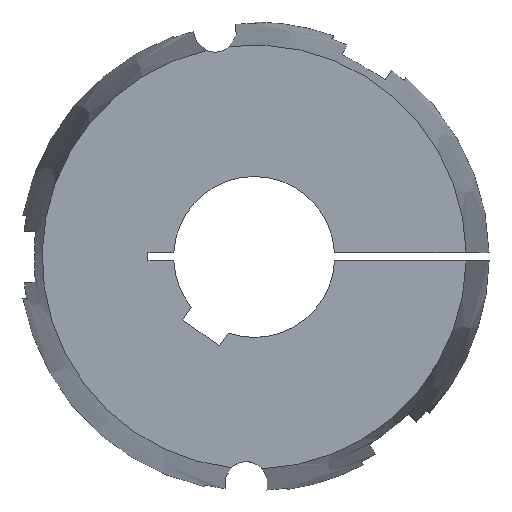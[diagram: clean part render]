
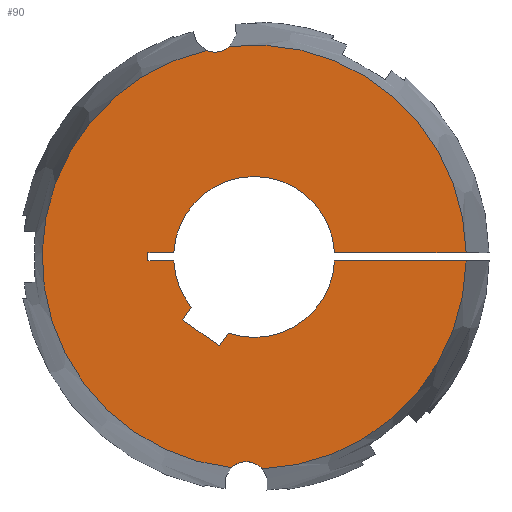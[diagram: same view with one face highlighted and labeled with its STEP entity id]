
A CAD part, left-side view. The second image highlights one B-rep face of the part: STEP entity #90.
In plain terms, the highlighted planar face has unit normal (-1, 0, 0).
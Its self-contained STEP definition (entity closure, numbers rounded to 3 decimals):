
#90 = ADVANCED_FACE( '', ( #140 ), #141, .F. );
#140 = FACE_OUTER_BOUND( '', #208, .T. );
#141 = PLANE( '', #209 );
#208 = EDGE_LOOP( '', ( #369, #370, #371, #372, #373, #374, #375, #376, #377, #378, #379, #380, #381, #382, #383, #384 ) );
#209 = AXIS2_PLACEMENT_3D( '', #385, #386, #387 );
#369 = ORIENTED_EDGE( '', *, *, #548, .F. );
#370 = ORIENTED_EDGE( '', *, *, #601, .F. );
#371 = ORIENTED_EDGE( '', *, *, #570, .T. );
#372 = ORIENTED_EDGE( '', *, *, #583, .T. );
#373 = ORIENTED_EDGE( '', *, *, #581, .T. );
#374 = ORIENTED_EDGE( '', *, *, #578, .T. );
#375 = ORIENTED_EDGE( '', *, *, #587, .T. );
#376 = ORIENTED_EDGE( '', *, *, #602, .T. );
#377 = ORIENTED_EDGE( '', *, *, #603, .T. );
#378 = ORIENTED_EDGE( '', *, *, #604, .T. );
#379 = ORIENTED_EDGE( '', *, *, #605, .T. );
#380 = ORIENTED_EDGE( '', *, *, #606, .T. );
#381 = ORIENTED_EDGE( '', *, *, #572, .T. );
#382 = ORIENTED_EDGE( '', *, *, #607, .F. );
#383 = ORIENTED_EDGE( '', *, *, #551, .F. );
#384 = ORIENTED_EDGE( '', *, *, #608, .F. );
#385 = CARTESIAN_POINT( '', ( -102., 0., 0. ) );
#386 = DIRECTION( '', ( 1., 0., 0. ) );
#387 = DIRECTION( '', ( 0., 1., 0. ) );
#548 = EDGE_CURVE( '', #649, #651, #652, .F. );
#551 = EDGE_CURVE( '', #655, #657, #658, .F. );
#570 = EDGE_CURVE( '', #693, #691, #694, .T. );
#572 = EDGE_CURVE( '', #696, #697, #698, .T. );
#578 = EDGE_CURVE( '', #709, #707, #710, .T. );
#581 = EDGE_CURVE( '', #714, #709, #715, .T. );
#583 = EDGE_CURVE( '', #691, #714, #717, .T. );
#587 = EDGE_CURVE( '', #707, #721, #723, .T. );
#601 = EDGE_CURVE( '', #693, #649, #745, .T. );
#602 = EDGE_CURVE( '', #721, #746, #747, .T. );
#603 = EDGE_CURVE( '', #746, #748, #749, .T. );
#604 = EDGE_CURVE( '', #748, #750, #751, .T. );
#605 = EDGE_CURVE( '', #750, #752, #753, .T. );
#606 = EDGE_CURVE( '', #752, #696, #754, .T. );
#607 = EDGE_CURVE( '', #657, #697, #755, .T. );
#608 = EDGE_CURVE( '', #651, #655, #756, .T. );
#649 = VERTEX_POINT( '', #815 );
#651 = VERTEX_POINT( '', #828 );
#652 = CIRCLE( '', #829, 6.75 );
#655 = VERTEX_POINT( '', #843 );
#657 = VERTEX_POINT( '', #856 );
#658 = CIRCLE( '', #857, 6.75 );
#691 = VERTEX_POINT( '', #924 );
#693 = VERTEX_POINT( '', #927 );
#694 = LINE( '', #928, #929 );
#696 = VERTEX_POINT( '', #937 );
#697 = VERTEX_POINT( '', #938 );
#698 = LINE( '', #939, #940 );
#707 = VERTEX_POINT( '', #958 );
#709 = VERTEX_POINT( '', #961 );
#710 = LINE( '', #962, #963 );
#714 = VERTEX_POINT( '', #969 );
#715 = LINE( '', #970, #971 );
#717 = CIRCLE( '', #974, 25. );
#721 = VERTEX_POINT( '', #979 );
#723 = LINE( '', #982, #983 );
#745 = CIRCLE( '', #1008, 65.867 );
#746 = VERTEX_POINT( '', #1009 );
#747 = CIRCLE( '', #1010, 25. );
#748 = VERTEX_POINT( '', #1011 );
#749 = LINE( '', #1012, #1013 );
#750 = VERTEX_POINT( '', #1014 );
#751 = LINE( '', #1015, #1016 );
#752 = VERTEX_POINT( '', #1017 );
#753 = LINE( '', #1018, #1019 );
#754 = CIRCLE( '', #1020, 25. );
#755 = CIRCLE( '', #1021, 65.867 );
#756 = CIRCLE( '', #1022, 65.867 );
#815 = CARTESIAN_POINT( '', ( -102., -2.538, -65.819 ) );
#828 = CARTESIAN_POINT( '', ( -102., 7.121, -65.481 ) );
#829 = AXIS2_PLACEMENT_3D( '', #1188, #1189, #1190 );
#843 = CARTESIAN_POINT( '', ( -102., 14.891, 64.162 ) );
#856 = CARTESIAN_POINT( '', ( -102., 7.611, 65.426 ) );
#857 = AXIS2_PLACEMENT_3D( '', #1191, #1192, #1193 );
#924 = CARTESIAN_POINT( '', ( -102., -24.969, -1.25 ) );
#927 = CARTESIAN_POINT( '', ( -102., -65.856, -1.25 ) );
#928 = CARTESIAN_POINT( '', ( -102., -73., -1.25 ) );
#929 = VECTOR( '', #1223, 1000. );
#937 = CARTESIAN_POINT( '', ( -102., -24.969, 1.25 ) );
#938 = CARTESIAN_POINT( '', ( -102., -65.856, 1.25 ) );
#939 = CARTESIAN_POINT( '', ( -102., 0., 1.25 ) );
#940 = VECTOR( '', #1224, 1000. );
#958 = CARTESIAN_POINT( '', ( -102., 22.253, -19.577 ) );
#961 = CARTESIAN_POINT( '', ( -102., 10.785, -27.607 ) );
#962 = CARTESIAN_POINT( '', ( -102., 10.785, -27.607 ) );
#963 = VECTOR( '', #1229, 1000. );
#969 = CARTESIAN_POINT( '', ( -102., 8.032, -23.675 ) );
#970 = CARTESIAN_POINT( '', ( -102., 8.032, -23.675 ) );
#971 = VECTOR( '', #1232, 1000. );
#974 = AXIS2_PLACEMENT_3D( '', #1234, #1235, #1236 );
#979 = CARTESIAN_POINT( '', ( -102., 19.5, -15.645 ) );
#982 = CARTESIAN_POINT( '', ( -102., 22.253, -19.577 ) );
#983 = VECTOR( '', #1242, 1000. );
#1008 = AXIS2_PLACEMENT_3D( '', #1276, #1277, #1278 );
#1009 = CARTESIAN_POINT( '', ( -102., 24.969, -1.25 ) );
#1010 = AXIS2_PLACEMENT_3D( '', #1279, #1280, #1281 );
#1011 = CARTESIAN_POINT( '', ( -102., 33., -1.25 ) );
#1012 = CARTESIAN_POINT( '', ( -102., 0., -1.25 ) );
#1013 = VECTOR( '', #1282, 1000. );
#1014 = CARTESIAN_POINT( '', ( -102., 33., 1.25 ) );
#1015 = CARTESIAN_POINT( '', ( -102., 33., -1.25 ) );
#1016 = VECTOR( '', #1283, 1000. );
#1017 = CARTESIAN_POINT( '', ( -102., 24.969, 1.25 ) );
#1018 = CARTESIAN_POINT( '', ( -102., 33., 1.25 ) );
#1019 = VECTOR( '', #1284, 1000. );
#1020 = AXIS2_PLACEMENT_3D( '', #1285, #1286, #1287 );
#1021 = AXIS2_PLACEMENT_3D( '', #1288, #1289, #1290 );
#1022 = AXIS2_PLACEMENT_3D( '', #1291, #1292, #1293 );
#1188 = CARTESIAN_POINT( '', ( -102., 2.456, -70.36 ) );
#1189 = DIRECTION( '', ( 1., 0., 0. ) );
#1190 = DIRECTION( '', ( 0., 1., 0. ) );
#1191 = CARTESIAN_POINT( '', ( -102., 12.218, 70.36 ) );
#1192 = DIRECTION( '', ( 1., 0., 0. ) );
#1193 = DIRECTION( '', ( 0., 1., 0. ) );
#1223 = DIRECTION( '', ( 0., 1., 0. ) );
#1224 = DIRECTION( '', ( 0., -1., 0. ) );
#1229 = DIRECTION( '', ( 0., 0.819, 0.574 ) );
#1232 = DIRECTION( '', ( 0., 0.574, -0.819 ) );
#1234 = CARTESIAN_POINT( '', ( -102., 0., 0. ) );
#1235 = DIRECTION( '', ( 1., 0., 0. ) );
#1236 = DIRECTION( '', ( 0., 0., -1. ) );
#1242 = DIRECTION( '', ( 0., -0.574, 0.819 ) );
#1276 = CARTESIAN_POINT( '', ( -102., 0., 0. ) );
#1277 = DIRECTION( '', ( 1., 0., 0. ) );
#1278 = DIRECTION( '', ( 0., 1., 0. ) );
#1279 = CARTESIAN_POINT( '', ( -102., 0., 0. ) );
#1280 = DIRECTION( '', ( 1., 0., 0. ) );
#1281 = DIRECTION( '', ( 0., 0., -1. ) );
#1282 = DIRECTION( '', ( 0., 1., 0. ) );
#1283 = DIRECTION( '', ( 0., 0., 1. ) );
#1284 = DIRECTION( '', ( 0., -1., 0. ) );
#1285 = CARTESIAN_POINT( '', ( -102., 0., 0. ) );
#1286 = DIRECTION( '', ( 1., 0., 0. ) );
#1287 = DIRECTION( '', ( 0., 0., -1. ) );
#1288 = CARTESIAN_POINT( '', ( -102., 0., 0. ) );
#1289 = DIRECTION( '', ( 1., 0., 0. ) );
#1290 = DIRECTION( '', ( 0., 1., 0. ) );
#1291 = CARTESIAN_POINT( '', ( -102., 0., 0. ) );
#1292 = DIRECTION( '', ( 1., 0., 0. ) );
#1293 = DIRECTION( '', ( 0., 1., 0. ) );
